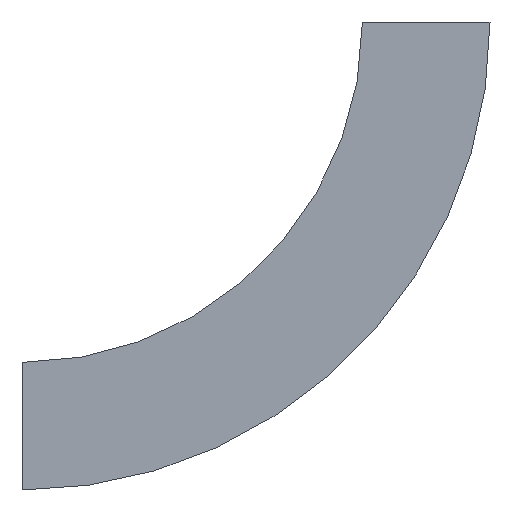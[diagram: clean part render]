
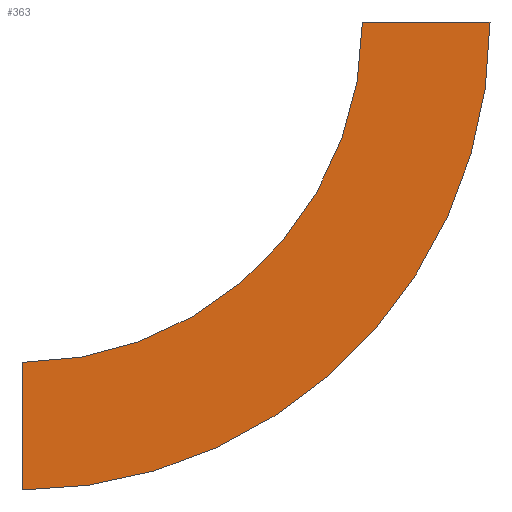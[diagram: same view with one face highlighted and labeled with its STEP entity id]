
A CAD part, left-side view. The second image highlights one B-rep face of the part: STEP entity #363.
In plain terms, the highlighted planar face has unit normal (-1, 0, 0) as drawn and (1, 0, 0) by its records, which use the part's own axes.
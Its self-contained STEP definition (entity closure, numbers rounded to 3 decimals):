
#8 = DIRECTION ( 'NONE',  ( 0., -1., 0. ) ) ;
#9 = AXIS2_PLACEMENT_3D ( 'NONE', #224, #491, #8 ) ;
#12 = CARTESIAN_POINT ( 'NONE',  ( 0., 300., -412.5 ) ) ;
#39 = EDGE_CURVE ( 'NONE', #441, #503, #140, .T. ) ;
#45 = DIRECTION ( 'NONE',  ( -1., 0., 0. ) ) ;
#71 = ORIENTED_EDGE ( 'NONE', *, *, #251, .F. ) ;
#75 = EDGE_CURVE ( 'NONE', #503, #114, #410, .T. ) ;
#95 = DIRECTION ( 'NONE',  ( 0., 1., 0. ) ) ;
#114 = VERTEX_POINT ( 'NONE', #542 ) ;
#116 = EDGE_CURVE ( 'NONE', #346, #114, #269, .T. ) ;
#128 = EDGE_LOOP ( 'NONE', ( #311, #71, #384, #536 ) ) ;
#135 = CARTESIAN_POINT ( 'NONE',  ( 0., 300., 0. ) ) ;
#140 = CIRCLE ( 'NONE', #264, 412.5 ) ;
#144 = CARTESIAN_POINT ( 'NONE',  ( 0., -112.5, 0. ) ) ;
#151 = VECTOR ( 'NONE', #444, 1000. ) ;
#192 = CARTESIAN_POINT ( 'NONE',  ( 0., 0., 0. ) ) ;
#202 = DIRECTION ( 'NONE',  ( 0., 0., 1. ) ) ;
#224 = CARTESIAN_POINT ( 'NONE',  ( 0., 300., 0. ) ) ;
#231 = CARTESIAN_POINT ( 'NONE',  ( 0., -112.5, 0. ) ) ;
#251 = EDGE_CURVE ( 'NONE', #441, #346, #382, .T. ) ;
#264 = AXIS2_PLACEMENT_3D ( 'NONE', #135, #365, #268 ) ;
#268 = DIRECTION ( 'NONE',  ( 0., -1., 0. ) ) ;
#269 = CIRCLE ( 'NONE', #9, 300. ) ;
#311 = ORIENTED_EDGE ( 'NONE', *, *, #116, .F. ) ;
#313 = VECTOR ( 'NONE', #95, 1000. ) ;
#346 = VERTEX_POINT ( 'NONE', #192 ) ;
#363 = ADVANCED_FACE ( 'NONE', ( #409 ), #456, .F. ) ;
#365 = DIRECTION ( 'NONE',  ( 1., 0., 0. ) ) ;
#382 = LINE ( 'NONE', #567, #313 ) ;
#384 = ORIENTED_EDGE ( 'NONE', *, *, #39, .T. ) ;
#409 = FACE_OUTER_BOUND ( 'NONE', #128, .T. ) ;
#410 = LINE ( 'NONE', #12, #151 ) ;
#441 = VERTEX_POINT ( 'NONE', #231 ) ;
#444 = DIRECTION ( 'NONE',  ( 0., 0., 1. ) ) ;
#456 = PLANE ( 'NONE',  #546 ) ;
#469 = CARTESIAN_POINT ( 'NONE',  ( 0., 300., -412.5 ) ) ;
#491 = DIRECTION ( 'NONE',  ( 1., 0., 0. ) ) ;
#503 = VERTEX_POINT ( 'NONE', #469 ) ;
#536 = ORIENTED_EDGE ( 'NONE', *, *, #75, .T. ) ;
#542 = CARTESIAN_POINT ( 'NONE',  ( 0., 300., -300. ) ) ;
#546 = AXIS2_PLACEMENT_3D ( 'NONE', #144, #45, #202 ) ;
#567 = CARTESIAN_POINT ( 'NONE',  ( 0., -112.5, 0. ) ) ;
